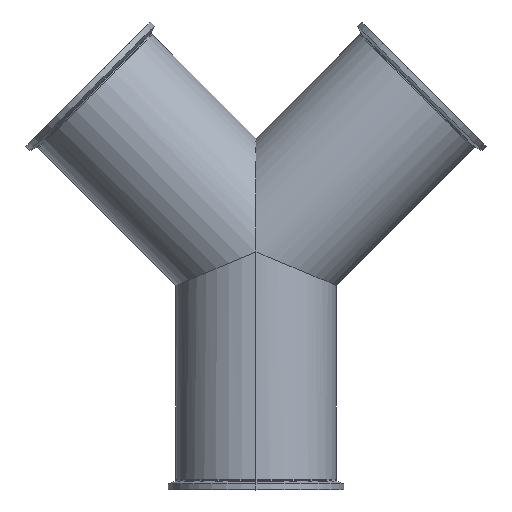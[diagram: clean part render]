
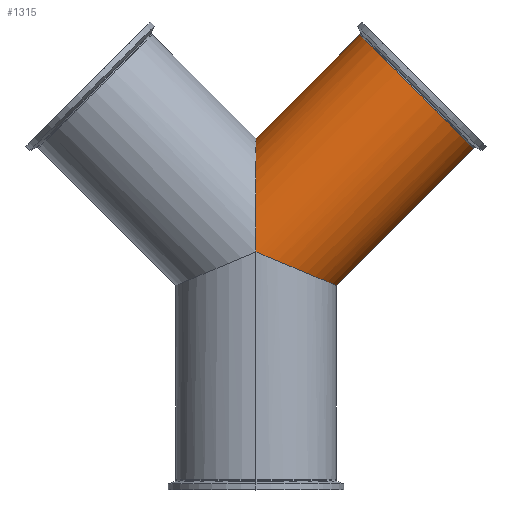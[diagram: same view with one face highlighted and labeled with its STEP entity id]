
A CAD part, top view. The second image highlights one B-rep face of the part: STEP entity #1315.
In plain terms, the highlighted cylindrical face has radius 76.2 mm (diameter 152.4 mm), a partial arc.
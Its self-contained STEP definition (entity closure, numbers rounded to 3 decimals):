
#33 = CARTESIAN_POINT ( 'NONE',  ( 0., 0., 76.2 ) ) ;
#198 = LINE ( 'NONE', #2446, #4878 ) ;
#398 = DIRECTION ( 'NONE',  ( -0.707, -0.707, 0. ) ) ;
#406 = CARTESIAN_POINT ( 'NONE',  ( -98.518, -206.282, 0. ) ) ;
#686 = DIRECTION ( 'NONE',  ( 0.707, 0.707, 0. ) ) ;
#856 = VERTEX_POINT ( 'NONE', #4315 ) ;
#977 = VECTOR ( 'NONE', #4915, 1000. ) ;
#1149 = DIRECTION ( 'NONE',  ( -0.707, 0.707, 0. ) ) ;
#1315 = ADVANCED_FACE ( 'NONE', ( #5011 ), #1402, .T. ) ;
#1318 = ORIENTED_EDGE ( 'NONE', *, *, #1339, .F. ) ;
#1339 = EDGE_CURVE ( 'NONE', #1344, #5659, #198, .T. ) ;
#1344 = VERTEX_POINT ( 'NONE', #5164 ) ;
#1402 = CYLINDRICAL_SURFACE ( 'NONE', #2703, 76.2 ) ;
#1423 = CARTESIAN_POINT ( 'NONE',  ( 0., 0., 76.2 ) ) ;
#1602 = EDGE_CURVE ( 'NONE', #856, #3750, #3397, .T. ) ;
#1971 = EDGE_CURVE ( 'NONE', #1344, #2552, #5575, .T. ) ;
#2039 = CARTESIAN_POINT ( 'NONE',  ( 0., 0., 76.2 ) ) ;
#2160 = EDGE_LOOP ( 'NONE', ( #2442, #2682, #2290, #1318, #4883 ) ) ;
#2290 = ORIENTED_EDGE ( 'NONE', *, *, #4956, .T. ) ;
#2296 = CARTESIAN_POINT ( 'NONE',  ( 76.2, -31.563, 0. ) ) ;
#2305 = CARTESIAN_POINT ( 'NONE',  ( 206.192, 98.429, 0. ) ) ;
#2442 = ORIENTED_EDGE ( 'NONE', *, *, #5743, .F. ) ;
#2446 = CARTESIAN_POINT ( 'NONE',  ( -206.282, -98.518, 0. ) ) ;
#2552 = VERTEX_POINT ( 'NONE', #1423 ) ;
#2682 = ORIENTED_EDGE ( 'NONE', *, *, #1602, .T. ) ;
#2703 = AXIS2_PLACEMENT_3D ( 'NONE', #4763, #686, #1149 ) ;
#2748 = CARTESIAN_POINT ( 'NONE',  ( 44.637, -18.489, 76.2 ) ) ;
#3103 = CARTESIAN_POINT ( 'NONE',  ( 152.311, 152.311, 0. ) ) ;
#3397 = LINE ( 'NONE', #406, #977 ) ;
#3568 = DIRECTION ( 'NONE',  ( -0.707, 0.707, 0. ) ) ;
#3630 = CARTESIAN_POINT ( 'NONE',  ( 98.429, 206.192, 0. ) ) ;
#3750 = VERTEX_POINT ( 'NONE', #2305 ) ;
#4315 = CARTESIAN_POINT ( 'NONE',  ( 76.2, -31.563, 0. ) ) ;
#4612 = AXIS2_PLACEMENT_3D ( 'NONE', #3103, #398, #3568 ) ;
#4709 = CARTESIAN_POINT ( 'NONE',  ( 0., 107.763, 44.637 ) ) ;
#4756 = CARTESIAN_POINT ( 'NONE',  ( 0., 63.126, 76.2 ) ) ;
#4763 = CARTESIAN_POINT ( 'NONE',  ( -152.4, -152.4, 0. ) ) ;
#4792 =( BOUNDED_CURVE ( )  B_SPLINE_CURVE ( 3, ( #2296, #5470, #2748, #33 ),
 .UNSPECIFIED., .F., .T. ) 
 B_SPLINE_CURVE_WITH_KNOTS ( ( 4, 4 ),
 ( 3.142, 4.712 ),
 .UNSPECIFIED. ) 
 CURVE ( )  GEOMETRIC_REPRESENTATION_ITEM ( )  RATIONAL_B_SPLINE_CURVE ( ( 1., 0.805, 0.805, 1. ) ) 
 REPRESENTATION_ITEM ( '' )  );
#4878 = VECTOR ( 'NONE', #5624, 1000. ) ;
#4883 = ORIENTED_EDGE ( 'NONE', *, *, #1971, .T. ) ;
#4915 = DIRECTION ( 'NONE',  ( 0.707, 0.707, 0. ) ) ;
#4956 = EDGE_CURVE ( 'NONE', #3750, #5659, #4960, .T. ) ;
#4960 = CIRCLE ( 'NONE', #4612, 76.2 ) ;
#5011 = FACE_OUTER_BOUND ( 'NONE', #2160, .T. ) ;
#5164 = CARTESIAN_POINT ( 'NONE',  ( 0., 107.763, 0. ) ) ;
#5170 = CARTESIAN_POINT ( 'NONE',  ( 0., 107.763, 0. ) ) ;
#5470 = CARTESIAN_POINT ( 'NONE',  ( 76.2, -31.563, 44.637 ) ) ;
#5575 =( BOUNDED_CURVE ( )  B_SPLINE_CURVE ( 3, ( #5170, #4709, #4756, #2039 ),
 .UNSPECIFIED., .F., .F. ) 
 B_SPLINE_CURVE_WITH_KNOTS ( ( 4, 4 ),
 ( 0., 1.571 ),
 .UNSPECIFIED. ) 
 CURVE ( )  GEOMETRIC_REPRESENTATION_ITEM ( )  RATIONAL_B_SPLINE_CURVE ( ( 1., 0.805, 0.805, 1. ) ) 
 REPRESENTATION_ITEM ( '' )  );
#5624 = DIRECTION ( 'NONE',  ( 0.707, 0.707, 0. ) ) ;
#5659 = VERTEX_POINT ( 'NONE', #3630 ) ;
#5743 = EDGE_CURVE ( 'NONE', #856, #2552, #4792, .T. ) ;
